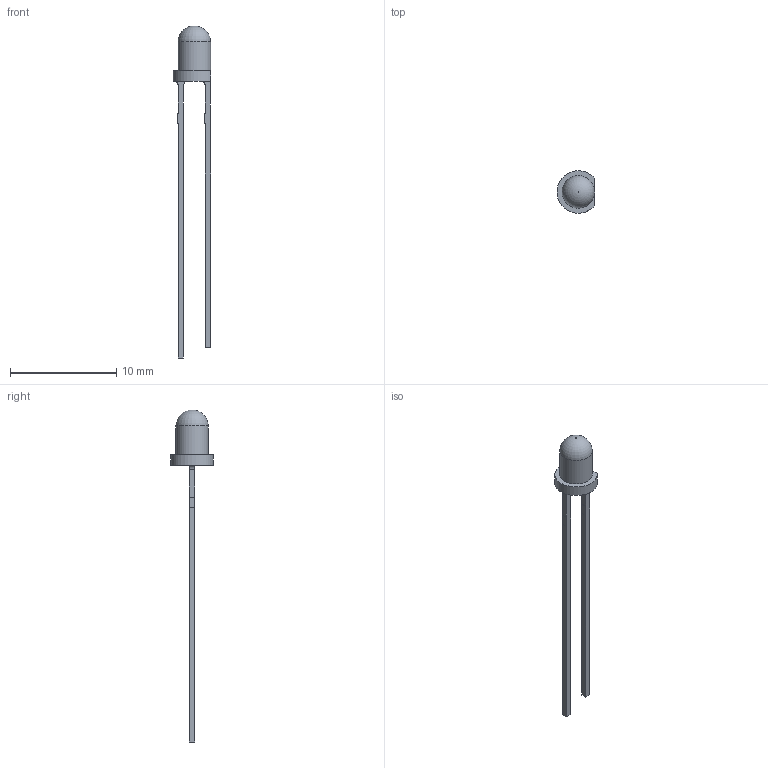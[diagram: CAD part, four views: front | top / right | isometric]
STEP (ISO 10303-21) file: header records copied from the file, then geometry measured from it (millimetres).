
FILE_DESCRIPTION(/* description */ ('STEP AP242','CAx-IF Rec.Pracs.---Representation and Presentation of Product Manufacturing Information (PMI)---4.0---2014-10-13','CAx-IF Rec.Pracs.---3D Tessellated Geometry---0.4---2014-09-14','2;1'),/* implementation_level */ '2;1');
FILE_NAME(/* name */ '630fd8f51a0b465e5bf56f4e',/* time_stamp */ '2022-08-31T21:56:06+00:00',/* author */ (''),/* organization */ (''),/* preprocessor_version */ 'ST-DEVELOPER v18.102',/* originating_system */ ' ',/* authorisation */ ' ');
FILE_SCHEMA (('AP242_MANAGED_MODEL_BASED_3D_ENGINEERING_MIM_LF { 1 0 10303 442 1 1 4 }'));
Length unit declared in the file: metre
Products named in the file (4): QBL7R50C-2897; Lead2; Lens; Lead1
Assembly tree (3 placements, depth 2):
  QBL7R50C-2897
    Lead2
    Lens
    Lead1
Bounding box: 3.57 x 4 x 31.2 mm (x, y, z)
Volume: 51.7 mm3; surface area: 174 mm2
Topology: 3 solids, 3 shells, 95 faces, 247 edges, 164 vertices
Faces by surface type: plane 60, bspline 29, cylinder 5, torus 1
Full cylindrical faces by diameter (mm): 3.05 x1
Entity records: 3049 total; most frequent: CARTESIAN_POINT 831, ORIENTED_EDGE 488, DIRECTION 335, EDGE_CURVE 244, LINE 173, VECTOR 173, VERTEX_POINT 163, EDGE_LOOP 103
